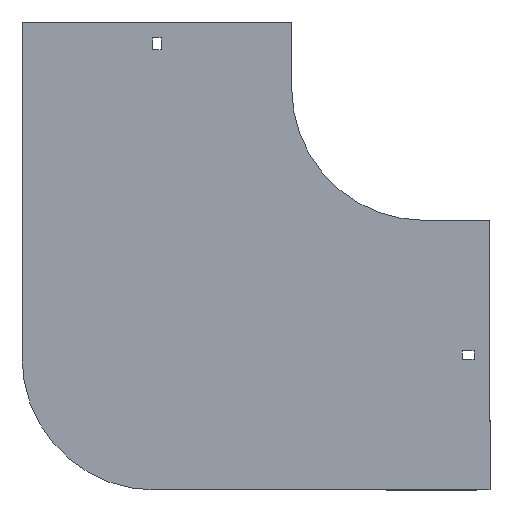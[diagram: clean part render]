
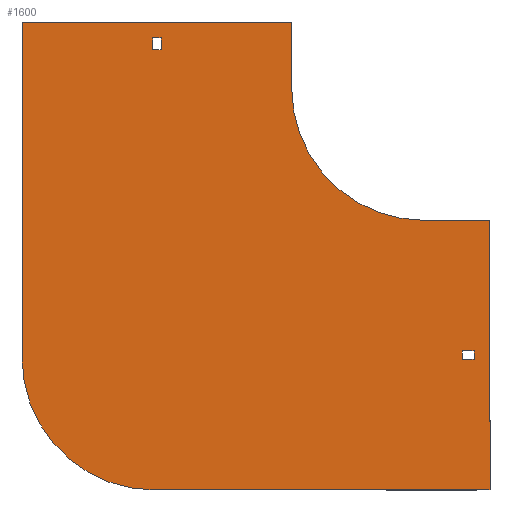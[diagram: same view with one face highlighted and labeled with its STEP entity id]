
A CAD part, front view. The second image highlights one B-rep face of the part: STEP entity #1600.
In plain terms, the highlighted planar face has unit normal (0, -1, 0).
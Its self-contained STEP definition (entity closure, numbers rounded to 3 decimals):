
#8 = EDGE_CURVE ( 'NONE', #415, #834, #79, .T. ) ;
#16 = VECTOR ( 'NONE', #820, 1000. ) ;
#30 = VERTEX_POINT ( 'NONE', #929 ) ;
#34 = CARTESIAN_POINT ( 'NONE',  ( 50., 0., -304. ) ) ;
#41 = CARTESIAN_POINT ( 'NONE',  ( 0., 0., 0. ) ) ;
#48 = VERTEX_POINT ( 'NONE', #791 ) ;
#65 = FACE_OUTER_BOUND ( 'NONE', #831, .T. ) ;
#79 = LINE ( 'NONE', #1658, #1483 ) ;
#84 = EDGE_CURVE ( 'NONE', #1037, #1935, #200, .T. ) ;
#99 = EDGE_LOOP ( 'NONE', ( #575, #376, #916, #632 ) ) ;
#109 = LINE ( 'NONE', #563, #299 ) ;
#117 = CARTESIAN_POINT ( 'NONE',  ( 50., 0., -304. ) ) ;
#134 = DIRECTION ( 'NONE',  ( 0., 0., -1. ) ) ;
#151 = VECTOR ( 'NONE', #1094, 1000. ) ;
#170 = LINE ( 'NONE', #1341, #681 ) ;
#193 = VERTEX_POINT ( 'NONE', #1497 ) ;
#197 = VERTEX_POINT ( 'NONE', #278 ) ;
#200 = LINE ( 'NONE', #34, #16 ) ;
#206 = VERTEX_POINT ( 'NONE', #1832 ) ;
#207 = CARTESIAN_POINT ( 'NONE',  ( 29., 0., -205.25 ) ) ;
#213 = DIRECTION ( 'NONE',  ( 0., -1., 0. ) ) ;
#222 = FACE_BOUND ( 'NONE', #377, .T. ) ;
#225 = EDGE_CURVE ( 'NONE', #1935, #193, #1890, .T. ) ;
#247 = EDGE_CURVE ( 'NONE', #48, #606, #630, .T. ) ;
#278 = CARTESIAN_POINT ( 'NONE',  ( 50., 0., -100. ) ) ;
#280 = VERTEX_POINT ( 'NONE', #1261 ) ;
#299 = VECTOR ( 'NONE', #1759, 1000. ) ;
#307 = CARTESIAN_POINT ( 'NONE',  ( 50., 0., -100. ) ) ;
#333 = CARTESIAN_POINT ( 'NONE',  ( 29., 0., -205.25 ) ) ;
#356 = VERTEX_POINT ( 'NONE', #786 ) ;
#376 = ORIENTED_EDGE ( 'NONE', *, *, #510, .T. ) ;
#377 = EDGE_LOOP ( 'NONE', ( #967, #1676, #1304, #512 ) ) ;
#415 = VERTEX_POINT ( 'NONE', #666 ) ;
#420 = ORIENTED_EDGE ( 'NONE', *, *, #983, .F. ) ;
#447 = DIRECTION ( 'NONE',  ( 0., 0., 1. ) ) ;
#467 = CARTESIAN_POINT ( 'NONE',  ( -100., 0., 0. ) ) ;
#483 = PLANE ( 'NONE',  #1682 ) ;
#494 = LINE ( 'NONE', #1875, #1522 ) ;
#507 = EDGE_CURVE ( 'NONE', #1893, #1501, #109, .T. ) ;
#510 = EDGE_CURVE ( 'NONE', #206, #415, #573, .T. ) ;
#512 = ORIENTED_EDGE ( 'NONE', *, *, #1025, .F. ) ;
#517 = VECTOR ( 'NONE', #1297, 1000. ) ;
#521 = DIRECTION ( 'NONE',  ( 0., 0., -1. ) ) ;
#545 = CARTESIAN_POINT ( 'NONE',  ( 29., 0., -205.25 ) ) ;
#563 = CARTESIAN_POINT ( 'NONE',  ( -304., 0., 50. ) ) ;
#573 = LINE ( 'NONE', #1071, #1395 ) ;
#575 = ORIENTED_EDGE ( 'NONE', *, *, #770, .T. ) ;
#606 = VERTEX_POINT ( 'NONE', #545 ) ;
#630 = LINE ( 'NONE', #333, #951 ) ;
#632 = ORIENTED_EDGE ( 'NONE', *, *, #882, .T. ) ;
#635 = LINE ( 'NONE', #207, #1333 ) ;
#646 = DIRECTION ( 'NONE',  ( 0., 0., -1. ) ) ;
#666 = CARTESIAN_POINT ( 'NONE',  ( -198.75, 0., 38. ) ) ;
#681 = VECTOR ( 'NONE', #1632, 1000. ) ;
#695 = CARTESIAN_POINT ( 'NONE',  ( 38., 0., -198.75 ) ) ;
#707 = CARTESIAN_POINT ( 'NONE',  ( 29., 0., -198.75 ) ) ;
#716 = VECTOR ( 'NONE', #1690, 1000. ) ;
#770 = EDGE_CURVE ( 'NONE', #280, #206, #1199, .T. ) ;
#783 = VECTOR ( 'NONE', #134, 1000. ) ;
#786 = CARTESIAN_POINT ( 'NONE',  ( 0., 0., -100. ) ) ;
#791 = CARTESIAN_POINT ( 'NONE',  ( 29., 0., -198.75 ) ) ;
#820 = DIRECTION ( 'NONE',  ( -1., 0., 0. ) ) ;
#831 = EDGE_LOOP ( 'NONE', ( #1078, #420, #1479, #1220, #984, #1816, #1823, #1301 ) ) ;
#834 = VERTEX_POINT ( 'NONE', #1798 ) ;
#854 = LINE ( 'NONE', #707, #517 ) ;
#873 = VECTOR ( 'NONE', #1133, 1000. ) ;
#881 = CARTESIAN_POINT ( 'NONE',  ( -304., 0., 50. ) ) ;
#882 = EDGE_CURVE ( 'NONE', #834, #280, #1517, .T. ) ;
#916 = ORIENTED_EDGE ( 'NONE', *, *, #8, .T. ) ;
#929 = CARTESIAN_POINT ( 'NONE',  ( 38., 0., -205.25 ) ) ;
#939 = VECTOR ( 'NONE', #447, 1000. ) ;
#941 = DIRECTION ( 'NONE',  ( 0., 0., -1. ) ) ;
#950 = CARTESIAN_POINT ( 'NONE',  ( -204., 0., -204. ) ) ;
#951 = VECTOR ( 'NONE', #941, 1000. ) ;
#956 = CARTESIAN_POINT ( 'NONE',  ( 0., 0., 0. ) ) ;
#967 = ORIENTED_EDGE ( 'NONE', *, *, #1455, .F. ) ;
#981 = CARTESIAN_POINT ( 'NONE',  ( -205.25, 0., 29. ) ) ;
#983 = EDGE_CURVE ( 'NONE', #193, #1893, #1229, .T. ) ;
#984 = ORIENTED_EDGE ( 'NONE', *, *, #1933, .F. ) ;
#1025 = EDGE_CURVE ( 'NONE', #1355, #48, #854, .T. ) ;
#1028 = CARTESIAN_POINT ( 'NONE',  ( -205.25, 0., 29. ) ) ;
#1032 = CIRCLE ( 'NONE', #1650, 100. ) ;
#1037 = VERTEX_POINT ( 'NONE', #117 ) ;
#1071 = CARTESIAN_POINT ( 'NONE',  ( -205.25, 0., 38. ) ) ;
#1078 = ORIENTED_EDGE ( 'NONE', *, *, #507, .F. ) ;
#1094 = DIRECTION ( 'NONE',  ( 0., 0., 1. ) ) ;
#1098 = LINE ( 'NONE', #1556, #716 ) ;
#1133 = DIRECTION ( 'NONE',  ( -1., 0., 0. ) ) ;
#1169 = DIRECTION ( 'NONE',  ( 0., 0., -1. ) ) ;
#1199 = LINE ( 'NONE', #1028, #939 ) ;
#1220 = ORIENTED_EDGE ( 'NONE', *, *, #84, .F. ) ;
#1229 = LINE ( 'NONE', #1841, #151 ) ;
#1242 = DIRECTION ( 'NONE',  ( 0., 1., 0. ) ) ;
#1261 = CARTESIAN_POINT ( 'NONE',  ( -205.25, 0., 29. ) ) ;
#1281 = AXIS2_PLACEMENT_3D ( 'NONE', #950, #1242, #1677 ) ;
#1297 = DIRECTION ( 'NONE',  ( -1., 0., 0. ) ) ;
#1301 = ORIENTED_EDGE ( 'NONE', *, *, #1696, .F. ) ;
#1304 = ORIENTED_EDGE ( 'NONE', *, *, #247, .F. ) ;
#1333 = VECTOR ( 'NONE', #1845, 1000. ) ;
#1337 = CARTESIAN_POINT ( 'NONE',  ( -100., 0., 50. ) ) ;
#1341 = CARTESIAN_POINT ( 'NONE',  ( 38., 0., -205.25 ) ) ;
#1350 = LINE ( 'NONE', #307, #783 ) ;
#1355 = VERTEX_POINT ( 'NONE', #695 ) ;
#1357 = CARTESIAN_POINT ( 'NONE',  ( -204., 0., -304. ) ) ;
#1383 = FACE_BOUND ( 'NONE', #99, .T. ) ;
#1395 = VECTOR ( 'NONE', #1667, 1000. ) ;
#1455 = EDGE_CURVE ( 'NONE', #30, #1355, #170, .T. ) ;
#1479 = ORIENTED_EDGE ( 'NONE', *, *, #225, .F. ) ;
#1483 = VECTOR ( 'NONE', #1169, 1000. ) ;
#1497 = CARTESIAN_POINT ( 'NONE',  ( -304., 0., -204. ) ) ;
#1501 = VERTEX_POINT ( 'NONE', #1337 ) ;
#1517 = LINE ( 'NONE', #981, #873 ) ;
#1522 = VECTOR ( 'NONE', #1548, 1000. ) ;
#1532 = VERTEX_POINT ( 'NONE', #467 ) ;
#1548 = DIRECTION ( 'NONE',  ( 1., 0., 0. ) ) ;
#1556 = CARTESIAN_POINT ( 'NONE',  ( -100., 0., 50. ) ) ;
#1593 = EDGE_CURVE ( 'NONE', #606, #30, #635, .T. ) ;
#1600 = ADVANCED_FACE ( 'NONE', ( #1383, #65, #222 ), #483, .T. ) ;
#1632 = DIRECTION ( 'NONE',  ( 0., 0., 1. ) ) ;
#1634 = EDGE_CURVE ( 'NONE', #356, #197, #494, .T. ) ;
#1650 = AXIS2_PLACEMENT_3D ( 'NONE', #956, #1866, #521 ) ;
#1658 = CARTESIAN_POINT ( 'NONE',  ( -198.75, 0., 29. ) ) ;
#1662 = EDGE_CURVE ( 'NONE', #1532, #356, #1032, .T. ) ;
#1667 = DIRECTION ( 'NONE',  ( 1., 0., 0. ) ) ;
#1676 = ORIENTED_EDGE ( 'NONE', *, *, #1593, .F. ) ;
#1677 = DIRECTION ( 'NONE',  ( 0., 0., 1. ) ) ;
#1682 = AXIS2_PLACEMENT_3D ( 'NONE', #41, #213, #646 ) ;
#1690 = DIRECTION ( 'NONE',  ( 0., 0., -1. ) ) ;
#1696 = EDGE_CURVE ( 'NONE', #1501, #1532, #1098, .T. ) ;
#1759 = DIRECTION ( 'NONE',  ( 1., 0., 0. ) ) ;
#1798 = CARTESIAN_POINT ( 'NONE',  ( -198.75, 0., 29. ) ) ;
#1816 = ORIENTED_EDGE ( 'NONE', *, *, #1634, .F. ) ;
#1823 = ORIENTED_EDGE ( 'NONE', *, *, #1662, .F. ) ;
#1832 = CARTESIAN_POINT ( 'NONE',  ( -205.25, 0., 38. ) ) ;
#1841 = CARTESIAN_POINT ( 'NONE',  ( -304., 0., -204. ) ) ;
#1845 = DIRECTION ( 'NONE',  ( 1., 0., 0. ) ) ;
#1866 = DIRECTION ( 'NONE',  ( 0., -1., 0. ) ) ;
#1875 = CARTESIAN_POINT ( 'NONE',  ( 0., 0., -100. ) ) ;
#1890 = CIRCLE ( 'NONE', #1281, 100. ) ;
#1893 = VERTEX_POINT ( 'NONE', #881 ) ;
#1933 = EDGE_CURVE ( 'NONE', #197, #1037, #1350, .T. ) ;
#1935 = VERTEX_POINT ( 'NONE', #1357 ) ;
